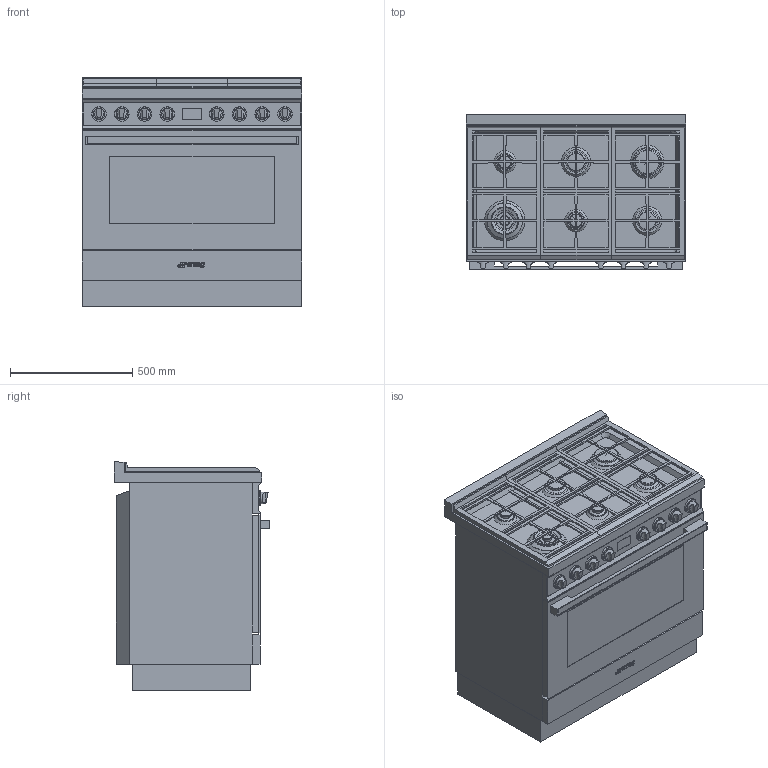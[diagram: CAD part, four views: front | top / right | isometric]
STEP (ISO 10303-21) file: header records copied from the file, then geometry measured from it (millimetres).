
FILE_DESCRIPTION(/* description */ (''),/* implementation_level */ '2;1');
FILE_NAME(/* name */ 'CPF9GMX.stp',/* time_stamp */ '2017-10-11T09:48:32+02:00',/* author */ (''),/* organization */ (''),/* preprocessor_version */ 'ST-DEVELOPER v16',/* originating_system */ 'SIEMENS PLM Software NX 11.0',/* authorisation */ '');
FILE_SCHEMA (('AUTOMOTIVE_DESIGN { 1 0 10303 214 3 1 1 1 }'));
Length unit declared in the file: millimetre
Products named in the file (1): gras6ACC90ABnc0z
Bounding box: 898 x 635.25 x 934.82 mm (x, y, z)
Volume: 399332950 mm3; surface area: 10112350.6 mm2
Topology: 55 solids, 55 shells, 820 faces, 2068 edges, 1364 vertices
Faces by surface type: plane 594, cylinder 124, bspline 54, cone 27, extrusion 11, torus 10
Full cylindrical faces by diameter (mm): 5 x4, 7 x12, 9.6 x6, 20 x2, 37 x1, 43 x1, 46 x2, 46.483 x8, 55 x2, 60 x8, 65.3 x2, 66 x1, 67 x2, 71.4 x1, 75 x2, 84.934 x1, 85.5 x2, 90 x1, 100 x1, 108.8 x1, 110.5 x1, 113 x1, 113.323 x1, 144.5 x1
Entity records: 28124 total; most frequent: CARTESIAN_POINT 8721, ORIENTED_EDGE 3884, DIRECTION 3592, EDGE_CURVE 1942, VECTOR 1476, LINE 1465, VERTEX_POINT 1349, AXIS2_PLACEMENT_3D 1058
